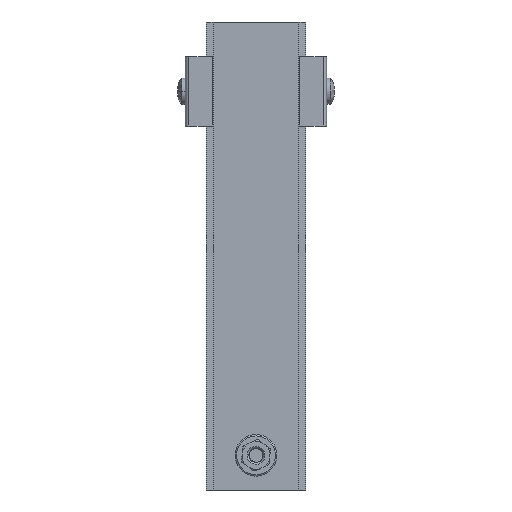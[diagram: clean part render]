
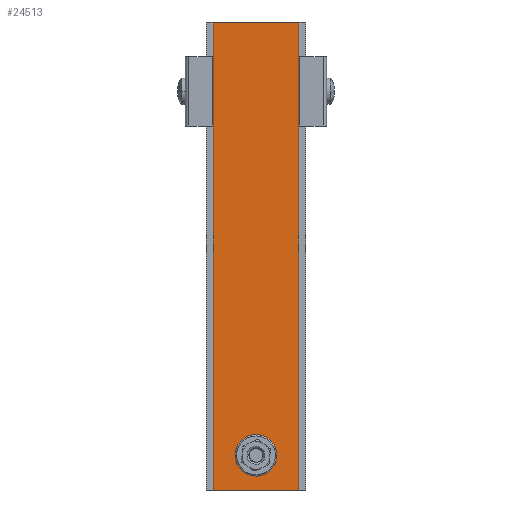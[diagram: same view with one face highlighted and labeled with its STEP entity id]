
A CAD part, front view. The second image highlights one B-rep face of the part: STEP entity #24513.
In plain terms, the highlighted planar face has unit normal (0, -1, 0).
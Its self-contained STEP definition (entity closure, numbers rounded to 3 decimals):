
#626 = ORIENTED_EDGE ( 'NONE', *, *, #2824, .F. ) ;
#642 = VECTOR ( 'NONE', #26678, 1000. ) ;
#1382 = LINE ( 'NONE', #13878, #15300 ) ;
#2307 = DIRECTION ( 'NONE',  ( -1., 0., 0. ) ) ;
#2824 = EDGE_CURVE ( 'NONE', #18502, #8178, #22807, .T. ) ;
#4482 = AXIS2_PLACEMENT_3D ( 'NONE', #35585, #18952, #2307 ) ;
#5303 = CARTESIAN_POINT ( 'NONE',  ( -5.798, -5.233, 10. ) ) ;
#5345 = ORIENTED_EDGE ( 'NONE', *, *, #25687, .T. ) ;
#6671 = ORIENTED_EDGE ( 'NONE', *, *, #9831, .T. ) ;
#6816 = VERTEX_POINT ( 'NONE', #17052 ) ;
#6904 = ORIENTED_EDGE ( 'NONE', *, *, #19593, .F. ) ;
#7240 = CARTESIAN_POINT ( 'NONE',  ( 10.552, -5.233, 135. ) ) ;
#7724 = LINE ( 'NONE', #23579, #28129 ) ;
#8178 = VERTEX_POINT ( 'NONE', #10088 ) ;
#8982 = DIRECTION ( 'NONE',  ( 0., 1., 0. ) ) ;
#9804 = FACE_OUTER_BOUND ( 'NONE', #13444, .T. ) ;
#9831 = EDGE_CURVE ( 'NONE', #29945, #14172, #20345, .T. ) ;
#10088 = CARTESIAN_POINT ( 'NONE',  ( 10.552, -5.233, 0. ) ) ;
#10828 = DIRECTION ( 'NONE',  ( 1., 0., 0. ) ) ;
#12415 = DIRECTION ( 'NONE',  ( 1., 0., 0. ) ) ;
#13444 = EDGE_LOOP ( 'NONE', ( #14190, #626, #6904, #15147 ) ) ;
#13678 = LINE ( 'NONE', #14278, #27553 ) ;
#13878 = CARTESIAN_POINT ( 'NONE',  ( 10.552, -5.233, 0. ) ) ;
#14172 = VERTEX_POINT ( 'NONE', #33323 ) ;
#14190 = ORIENTED_EDGE ( 'NONE', *, *, #32137, .T. ) ;
#14278 = CARTESIAN_POINT ( 'NONE',  ( -14.148, -5.233, 135. ) ) ;
#14443 = PLANE ( 'NONE',  #16683 ) ;
#14803 = DIRECTION ( 'NONE',  ( 0., 1., 0. ) ) ;
#15147 = ORIENTED_EDGE ( 'NONE', *, *, #35386, .T. ) ;
#15217 = AXIS2_PLACEMENT_3D ( 'NONE', #25572, #8982, #28384 ) ;
#15300 = VECTOR ( 'NONE', #10828, 1000. ) ;
#16683 = AXIS2_PLACEMENT_3D ( 'NONE', #31446, #14803, #34222 ) ;
#17052 = CARTESIAN_POINT ( 'NONE',  ( -14.148, -5.233, 0. ) ) ;
#17064 = DIRECTION ( 'NONE',  ( 0., 0., -1. ) ) ;
#18502 = VERTEX_POINT ( 'NONE', #7240 ) ;
#18952 = DIRECTION ( 'NONE',  ( 0., 1., 0. ) ) ;
#19593 = EDGE_CURVE ( 'NONE', #20777, #18502, #7724, .T. ) ;
#20345 = CIRCLE ( 'NONE', #15217, 4. ) ;
#20508 = CIRCLE ( 'NONE', #4482, 4. ) ;
#20777 = VERTEX_POINT ( 'NONE', #26501 ) ;
#22807 = LINE ( 'NONE', #23884, #642 ) ;
#23579 = CARTESIAN_POINT ( 'NONE',  ( 10.552, -5.233, 135. ) ) ;
#23884 = CARTESIAN_POINT ( 'NONE',  ( 10.552, -5.233, 135. ) ) ;
#24513 = ADVANCED_FACE ( 'NONE', ( #24533, #9804 ), #14443, .F. ) ;
#24533 = FACE_BOUND ( 'NONE', #30212, .T. ) ;
#25572 = CARTESIAN_POINT ( 'NONE',  ( -1.798, -5.233, 10. ) ) ;
#25687 = EDGE_CURVE ( 'NONE', #14172, #29945, #20508, .T. ) ;
#26501 = CARTESIAN_POINT ( 'NONE',  ( -14.148, -5.233, 135. ) ) ;
#26678 = DIRECTION ( 'NONE',  ( 0., 0., -1. ) ) ;
#27553 = VECTOR ( 'NONE', #17064, 1000. ) ;
#28129 = VECTOR ( 'NONE', #12415, 1000. ) ;
#28384 = DIRECTION ( 'NONE',  ( -1., 0., 0. ) ) ;
#29945 = VERTEX_POINT ( 'NONE', #5303 ) ;
#30212 = EDGE_LOOP ( 'NONE', ( #6671, #5345 ) ) ;
#31446 = CARTESIAN_POINT ( 'NONE',  ( 10.552, -5.233, 135. ) ) ;
#32137 = EDGE_CURVE ( 'NONE', #6816, #8178, #1382, .T. ) ;
#33323 = CARTESIAN_POINT ( 'NONE',  ( 2.202, -5.233, 10. ) ) ;
#34222 = DIRECTION ( 'NONE',  ( -1., 0., 0. ) ) ;
#35386 = EDGE_CURVE ( 'NONE', #20777, #6816, #13678, .T. ) ;
#35585 = CARTESIAN_POINT ( 'NONE',  ( -1.798, -5.233, 10. ) ) ;
